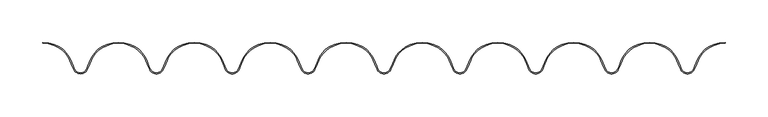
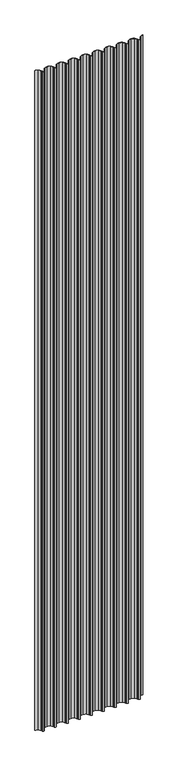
"""IFC4 building model written with IfcOpenShell, lengths in millimetres: plate geometry, Regolare Couverture 801  : Regolare Couverture 801 ."""

from ifc_helpers import new_model, si_unit, point, frame_2d, origin, origin_with_axes, place, context, project, spatial, polyline, circle_curve, trimmed, segment, composite_curve, outline, extrude, source, transform, mapped, element, save


def plate_819b0cbf(model_context):
    return source(origin(), model_context, "Body", "SweptSolid", [
        extrude(outline(composite_curve([segment(trimmed(circle_curve(frame_2d((-400.7317009, -1.5098563)), 37.4503244), [point((-381.1909507, 30.4383187))], [point((-400.7317009, 35.9404682))], True, "CARTESIAN"), True, "CONTINUOUS"), segment(polyline([(-400.7317009, 35.9404682), (-400.7317009, 36.9404682)]), True, "CONTINUOUS"), segment(trimmed(circle_curve(frame_2d((-400.7317009, -1.5098563)), 38.4503244), [point((-400.7317009, 36.9404682))], [point((-380.6691729, 31.2914001))], False, "CARTESIAN"), True, "CONTINUOUS"), segment(trimmed(circle_curve(frame_2d((-397.1660556, 4.3198001)), 31.6166783), [point((-380.6691729, 31.2914001))], [point((-367.8105714, 16.0616012))], False, "CARTESIAN"), True, "CONTINUOUS"), segment(polyline([(-367.8105714, 16.0616012), (-364.9413497, 8.8980757), (-363.294996, 5.4633665)]), True, "CONTINUOUS"), segment(trimmed(circle_curve(frame_2d((-356.2059563, 8.8613445)), 7.8613445), [point((-363.294996, 5.4633665))], [point((-356.2059563, 1.0))], True, "CARTESIAN"), True, "CONTINUOUS"), segment(trimmed(circle_curve(frame_2d((-356.2059563, 8.8613445)), 7.8613445), [point((-356.2059563, 1.0))], [point((-349.1169167, 5.4633665))], True, "CARTESIAN"), True, "CONTINUOUS"), segment(polyline([(-349.1169167, 5.4633665), (-347.470563, 8.8980757), (-344.6013413, 16.061601)]), True, "CONTINUOUS"), segment(trimmed(circle_curve(frame_2d((-315.245857, 4.3198001)), 31.6166783), [point((-344.6013413, 16.061601))], [point((-331.7427398, 31.2914001))], False, "CARTESIAN"), True, "CONTINUOUS"), segment(trimmed(circle_curve(frame_2d((-311.6802118, -1.5098563)), 38.4503244), [point((-331.7427398, 31.2914001))], [point((-311.6802118, 36.9404682))], False, "CARTESIAN"), True, "CONTINUOUS"), segment(trimmed(circle_curve(frame_2d((-311.6802118, -1.5098563)), 38.4503244), [point((-311.6802118, 36.9404682))], [point((-291.6176838, 31.2914001))], False, "CARTESIAN"), True, "CONTINUOUS"), segment(trimmed(circle_curve(frame_2d((-308.1145665, 4.3198001)), 31.6166783), [point((-291.6176838, 31.2914001))], [point((-278.7590823, 16.0616012))], False, "CARTESIAN"), True, "CONTINUOUS"), segment(polyline([(-278.7590823, 16.0616012), (-275.8898606, 8.8980757), (-274.2435069, 5.4633665)]), True, "CONTINUOUS"), segment(trimmed(circle_curve(frame_2d((-267.1544672, 8.8613445)), 7.8613445), [point((-274.2435069, 5.4633665))], [point((-260.0654276, 5.4633665))], True, "CARTESIAN"), True, "CONTINUOUS"), segment(polyline([(-260.0654276, 5.4633665), (-258.4190739, 8.8980757), (-255.5498522, 16.0616012)]), True, "CONTINUOUS"), segment(trimmed(circle_curve(frame_2d((-226.1943679, 4.3198001)), 31.6166783), [point((-255.5498522, 16.0616012))], [point((-242.6912507, 31.2914001))], False, "CARTESIAN"), True, "CONTINUOUS"), segment(trimmed(circle_curve(frame_2d((-222.6287227, -1.5098563)), 38.4503244), [point((-242.6912507, 31.2914001))], [point((-222.6287227, 36.9404682))], False, "CARTESIAN"), True, "CONTINUOUS"), segment(trimmed(circle_curve(frame_2d((-222.6287227, -1.5098563)), 38.4503244), [point((-222.6287227, 36.9404682))], [point((-202.5661947, 31.2914001))], False, "CARTESIAN"), True, "CONTINUOUS"), segment(trimmed(circle_curve(frame_2d((-219.0630775, 4.3198001)), 31.6166783), [point((-202.5661947, 31.2914001))], [point((-189.7075932, 16.0616012))], False, "CARTESIAN"), True, "CONTINUOUS"), segment(polyline([(-189.7075932, 16.0616012), (-186.8383715, 8.8980757), (-185.1920178, 5.4633665)]), True, "CONTINUOUS"), segment(trimmed(circle_curve(frame_2d((-178.1029782, 8.8613445)), 7.8613445), [point((-185.1920178, 5.4633665))], [point((-171.0139385, 5.4633665))], True, "CARTESIAN"), True, "CONTINUOUS"), segment(polyline([(-171.0139385, 5.4633665), (-169.3675848, 8.8980757), (-166.4983631, 16.0616012)]), True, "CONTINUOUS"), segment(trimmed(circle_curve(frame_2d((-137.1428789, 4.3198001)), 31.6166783), [point((-166.4983631, 16.0616012))], [point((-153.6397616, 31.2914001))], False, "CARTESIAN"), True, "CONTINUOUS"), segment(trimmed(circle_curve(frame_2d((-133.5772336, -1.5098563)), 38.4503244), [point((-153.6397616, 31.2914001))], [point((-133.5772336, 36.9404682))], False, "CARTESIAN"), True, "CONTINUOUS"), segment(trimmed(circle_curve(frame_2d((-133.5772336, -1.5098563)), 38.4503244), [point((-133.5772336, 36.9404682))], [point((-113.5147056, 31.2914001))], False, "CARTESIAN"), True, "CONTINUOUS"), segment(trimmed(circle_curve(frame_2d((-130.0115884, 4.3198001)), 31.6166783), [point((-113.5147056, 31.2914001))], [point((-100.6561042, 16.0616012))], False, "CARTESIAN"), True, "CONTINUOUS"), segment(polyline([(-100.6561042, 16.0616012), (-97.7868824, 8.8980757), (-96.1405287, 5.4633665)]), True, "CONTINUOUS"), segment(trimmed(circle_curve(frame_2d((-89.0514891, 8.8613445)), 7.8613445), [point((-96.1405287, 5.4633665))], [point((-81.9624494, 5.4633665))], True, "CARTESIAN"), True, "CONTINUOUS"), segment(polyline([(-81.9624494, 5.4633665), (-80.3160957, 8.8980757), (-77.4468741, 16.0616009)]), True, "CONTINUOUS"), segment(trimmed(circle_curve(frame_2d((-48.0913898, 4.3198001)), 31.6166783), [point((-77.4468741, 16.0616009))], [point((-64.5882725, 31.2914001))], False, "CARTESIAN"), True, "CONTINUOUS"), segment(trimmed(circle_curve(frame_2d((-44.5257445, -1.5098563)), 38.4503244), [point((-64.5882725, 31.2914001))], [point((-44.5257445, 36.9404682))], False, "CARTESIAN"), True, "CONTINUOUS"), segment(trimmed(circle_curve(frame_2d((-44.5257445, -1.5098563)), 38.4503244), [point((-44.5257445, 36.9404682))], [point((-24.4632165, 31.2914001))], False, "CARTESIAN"), True, "CONTINUOUS"), segment(trimmed(circle_curve(frame_2d((-40.9600993, 4.3198001)), 31.6166783), [point((-24.4632165, 31.2914001))], [point((-11.6046151, 16.0616012))], False, "CARTESIAN"), True, "CONTINUOUS"), segment(polyline([(-11.6046151, 16.0616012), (-8.7353934, 8.8980757), (-7.0890396, 5.4633665)]), True, "CONTINUOUS"), segment(trimmed(circle_curve(frame_2d((0.0, 8.8613445)), 7.8613445), [point((-7.0890396, 5.4633665))], [point((7.0890396, 5.4633665))], True, "CARTESIAN"), True, "CONTINUOUS"), segment(polyline([(7.0890396, 5.4633665), (10.1613035, 11.8728842), (11.81214, 15.9944927)]), True, "CONTINUOUS"), segment(trimmed(circle_curve(frame_2d((41.1621008, 4.238892)), 31.6166783), [point((11.81214, 15.9944927))], [point((24.665218, 31.210492))], False, "CARTESIAN"), True, "CONTINUOUS"), segment(trimmed(circle_curve(frame_2d((44.727746, -1.5907643)), 38.4503244), [point((24.665218, 31.210492))], [point((44.727746, 36.8595601))], False, "CARTESIAN"), True, "CONTINUOUS"), segment(trimmed(circle_curve(frame_2d((44.727746, -1.5907643)), 38.4503244), [point((44.727746, 36.8595601))], [point((64.790274, 31.210492))], False, "CARTESIAN"), True, "CONTINUOUS"), segment(trimmed(circle_curve(frame_2d((48.2933913, 4.238892)), 31.6166783), [point((64.790274, 31.210492))], [point((77.6433521, 15.9944927))], False, "CARTESIAN"), True, "CONTINUOUS"), segment(polyline([(77.6433521, 15.9944927), (81.3477885, 6.7457044), (81.9624494, 5.4633665)]), True, "CONTINUOUS"), segment(trimmed(circle_curve(frame_2d((89.0514891, 8.8613445)), 7.8613445), [point((81.9624494, 5.4633665))], [point((96.1405287, 5.4633665))], True, "CARTESIAN"), True, "CONTINUOUS"), segment(polyline([(96.1405287, 5.4633665), (97.7868824, 8.8980757), (100.6561041, 16.0616012)]), True, "CONTINUOUS"), segment(trimmed(circle_curve(frame_2d((130.0115884, 4.3198001)), 31.6166783), [point((100.6561041, 16.0616012))], [point((113.5147056, 31.2914001))], False, "CARTESIAN"), True, "CONTINUOUS"), segment(trimmed(circle_curve(frame_2d((133.5772336, -1.5098563)), 38.4503244), [point((113.5147056, 31.2914001))], [point((133.5772336, 36.9404682))], False, "CARTESIAN"), True, "CONTINUOUS"), segment(trimmed(circle_curve(frame_2d((133.5772336, -1.5098563)), 38.4503244), [point((133.5772336, 36.9404682))], [point((153.6397616, 31.2914001))], False, "CARTESIAN"), True, "CONTINUOUS"), segment(trimmed(circle_curve(frame_2d((137.1428789, 4.3198001)), 31.6166783), [point((153.6397616, 31.2914001))], [point((166.4983631, 16.0616012))], False, "CARTESIAN"), True, "CONTINUOUS"), segment(polyline([(166.4983631, 16.0616012), (169.3675848, 8.8980757), (171.0139385, 5.4633665)]), True, "CONTINUOUS"), segment(trimmed(circle_curve(frame_2d((178.1029782, 8.8613445)), 7.8613445), [point((171.0139385, 5.4633665))], [point((185.1920178, 5.4633665))], True, "CARTESIAN"), True, "CONTINUOUS"), segment(polyline([(185.1920178, 5.4633665), (186.8383715, 8.8980757), (189.7075932, 16.0616012)]), True, "CONTINUOUS"), segment(trimmed(circle_curve(frame_2d((219.0630775, 4.3198001)), 31.6166783), [point((189.7075932, 16.0616012))], [point((202.5661947, 31.2914001))], False, "CARTESIAN"), True, "CONTINUOUS"), segment(trimmed(circle_curve(frame_2d((222.6287227, -1.5098563)), 38.4503244), [point((202.5661947, 31.2914001))], [point((222.6287227, 36.9404682))], False, "CARTESIAN"), True, "CONTINUOUS"), segment(trimmed(circle_curve(frame_2d((222.6287227, -1.5098563)), 38.4503244), [point((222.6287227, 36.9404682))], [point((242.6912507, 31.2914001))], False, "CARTESIAN"), True, "CONTINUOUS"), segment(trimmed(circle_curve(frame_2d((226.1943679, 4.3198001)), 31.6166783), [point((242.6912507, 31.2914001))], [point((255.5498521, 16.0616013))], False, "CARTESIAN"), True, "CONTINUOUS"), segment(polyline([(255.5498521, 16.0616013), (258.4190739, 8.8980757), (260.0654276, 5.4633665)]), True, "CONTINUOUS"), segment(trimmed(circle_curve(frame_2d((267.1544672, 8.8613445)), 7.8613445), [point((260.0654276, 5.4633665))], [point((274.2435069, 5.4633665))], True, "CARTESIAN"), True, "CONTINUOUS"), segment(polyline([(274.2435069, 5.4633665), (275.8898606, 8.8980757), (278.7590823, 16.0616012)]), True, "CONTINUOUS"), segment(trimmed(circle_curve(frame_2d((308.1145665, 4.3198001)), 31.6166783), [point((278.7590823, 16.0616012))], [point((291.6176838, 31.2914001))], False, "CARTESIAN"), True, "CONTINUOUS"), segment(trimmed(circle_curve(frame_2d((311.6802118, -1.5098563)), 38.4503244), [point((291.6176838, 31.2914001))], [point((311.6802118, 36.9404682))], False, "CARTESIAN"), True, "CONTINUOUS"), segment(trimmed(circle_curve(frame_2d((311.6802118, -1.5098563)), 38.4503244), [point((311.6802118, 36.9404682))], [point((331.7427398, 31.2914001))], False, "CARTESIAN"), True, "CONTINUOUS"), segment(trimmed(circle_curve(frame_2d((315.245857, 4.3198001)), 31.6166783), [point((331.7427398, 31.2914001))], [point((344.6013413, 16.0616011))], False, "CARTESIAN"), True, "CONTINUOUS"), segment(polyline([(344.6013413, 16.0616011), (347.470563, 8.8980757), (349.1169167, 5.4633665)]), True, "CONTINUOUS"), segment(trimmed(circle_curve(frame_2d((356.2059563, 8.8613445)), 7.8613445), [point((349.1169167, 5.4633665))], [point((363.294996, 5.4633665))], True, "CARTESIAN"), True, "CONTINUOUS"), segment(polyline([(363.294996, 5.4633665), (364.9413497, 8.8980757), (367.8105713, 16.061601)]), True, "CONTINUOUS"), segment(trimmed(circle_curve(frame_2d((397.1660556, 4.3198001)), 31.6166783), [point((367.8105713, 16.061601))], [point((380.6691729, 31.2914001))], False, "CARTESIAN"), True, "CONTINUOUS"), segment(trimmed(circle_curve(frame_2d((400.7317009, -1.5098563)), 38.4503244), [point((380.6691729, 31.2914001))], [point((400.7317009, 36.9404682))], False, "CARTESIAN"), True, "CONTINUOUS"), segment(polyline([(400.7317009, 36.9404682), (400.7317009, 35.9404682)]), True, "CONTINUOUS"), segment(trimmed(circle_curve(frame_2d((400.7317009, -1.5098563)), 37.4503244), [point((400.7317009, 35.9404682))], [point((381.1909507, 30.4383187))], True, "CARTESIAN"), True, "CONTINUOUS"), segment(trimmed(circle_curve(frame_2d((397.1660556, 4.3198001)), 30.6166783), [point((381.1909507, 30.4383187))], [point((368.7389658, 15.6900047))], True, "CARTESIAN"), True, "CONTINUOUS"), segment(polyline([(368.7389658, 15.6900047), (365.8573799, 8.4956098), (364.1967551, 5.0311277)]), True, "CONTINUOUS"), segment(trimmed(circle_curve(frame_2d((356.2059563, 8.8613445)), 8.8613445), [point((364.1967551, 5.0311277))], [point((348.2151575, 5.0311277))], False, "CARTESIAN"), True, "CONTINUOUS"), segment(polyline([(348.2151575, 5.0311277), (346.5545328, 8.4956098), (343.6729469, 15.6900047)]), True, "CONTINUOUS"), segment(trimmed(circle_curve(frame_2d((315.245857, 4.3198001)), 30.6166783), [point((343.6729469, 15.6900047))], [point((331.2209619, 30.4383187))], True, "CARTESIAN"), True, "CONTINUOUS"), segment(trimmed(circle_curve(frame_2d((311.6802118, -1.5098563)), 37.4503244), [point((331.2209619, 30.4383187))], [point((311.6802118, 35.9404682))], True, "CARTESIAN"), True, "CONTINUOUS"), segment(trimmed(circle_curve(frame_2d((311.6802118, -1.5098563)), 37.4503244), [point((311.6802118, 35.9404682))], [point((292.1394616, 30.4383187))], True, "CARTESIAN"), True, "CONTINUOUS"), segment(trimmed(circle_curve(frame_2d((308.1145665, 4.3198001)), 30.6166783), [point((292.1394616, 30.4383187))], [point((279.6874767, 15.6900047))], True, "CARTESIAN"), True, "CONTINUOUS"), segment(polyline([(279.6874767, 15.6900047), (276.8058908, 8.4956098), (275.1452661, 5.0311277)]), True, "CONTINUOUS"), segment(trimmed(circle_curve(frame_2d((267.1544672, 8.8613445)), 8.8613445), [point((275.1452661, 5.0311277))], [point((259.1636684, 5.0311277))], False, "CARTESIAN"), True, "CONTINUOUS"), segment(polyline([(259.1636684, 5.0311277), (257.5030437, 8.4956098), (254.6214578, 15.6900047)]), True, "CONTINUOUS"), segment(trimmed(circle_curve(frame_2d((226.1943679, 4.3198001)), 30.6166783), [point((254.6214578, 15.6900047))], [point((242.1694728, 30.4383187))], True, "CARTESIAN"), True, "CONTINUOUS"), segment(trimmed(circle_curve(frame_2d((222.6287227, -1.5098563)), 37.4503244), [point((242.1694728, 30.4383187))], [point((222.6287227, 35.9404682))], True, "CARTESIAN"), True, "CONTINUOUS"), segment(trimmed(circle_curve(frame_2d((222.6287227, -1.5098563)), 37.4503244), [point((222.6287227, 35.9404682))], [point((203.0879726, 30.4383187))], True, "CARTESIAN"), True, "CONTINUOUS"), segment(trimmed(circle_curve(frame_2d((219.0630775, 4.3198001)), 30.6166783), [point((203.0879726, 30.4383187))], [point((190.6359876, 15.6900047))], True, "CARTESIAN"), True, "CONTINUOUS"), segment(polyline([(190.6359876, 15.6900047), (187.7544017, 8.4956098), (186.093777, 5.0311277)]), True, "CONTINUOUS"), segment(trimmed(circle_curve(frame_2d((178.1029782, 8.8613445)), 8.8613445), [point((186.093777, 5.0311277))], [point((170.1121793, 5.0311277))], False, "CARTESIAN"), True, "CONTINUOUS"), segment(polyline([(170.1121793, 5.0311277), (168.4515546, 8.4956098), (165.5699687, 15.6900047)]), True, "CONTINUOUS"), segment(trimmed(circle_curve(frame_2d((137.1428789, 4.3198001)), 30.6166783), [point((165.5699687, 15.6900047))], [point((153.1179838, 30.4383187))], True, "CARTESIAN"), True, "CONTINUOUS"), segment(trimmed(circle_curve(frame_2d((133.5772336, -1.5098563)), 37.4503244), [point((153.1179838, 30.4383187))], [point((133.5772336, 35.9404682))], True, "CARTESIAN"), True, "CONTINUOUS"), segment(trimmed(circle_curve(frame_2d((133.5772336, -1.5098563)), 37.4503244), [point((133.5772336, 35.9404682))], [point((114.0364835, 30.4383187))], True, "CARTESIAN"), True, "CONTINUOUS"), segment(trimmed(circle_curve(frame_2d((130.0115884, 4.3198001)), 30.6166783), [point((114.0364835, 30.4383187))], [point((101.5844985, 15.6900047))], True, "CARTESIAN"), True, "CONTINUOUS"), segment(polyline([(101.5844985, 15.6900047), (98.7029126, 8.4956098), (97.0422879, 5.0311277)]), True, "CONTINUOUS"), segment(trimmed(circle_curve(frame_2d((89.0514891, 8.8613445)), 8.8613445), [point((97.0422879, 5.0311277))], [point((81.0606903, 5.0311277))], False, "CARTESIAN"), True, "CONTINUOUS"), segment(polyline([(81.0606903, 5.0311277), (79.4000655, 8.4956098), (76.5184796, 15.6900047)]), True, "CONTINUOUS"), segment(trimmed(circle_curve(frame_2d((48.0913898, 4.3198001)), 30.6166783), [point((76.5184796, 15.6900047))], [point((64.0664947, 30.4383187))], True, "CARTESIAN"), True, "CONTINUOUS"), segment(trimmed(circle_curve(frame_2d((44.5257445, -1.5098563)), 37.4503244), [point((64.0664947, 30.4383187))], [point((44.5257445, 35.9404682))], True, "CARTESIAN"), True, "CONTINUOUS"), segment(trimmed(circle_curve(frame_2d((44.5257445, -1.5098563)), 37.4503244), [point((44.5257445, 35.9404682))], [point((24.9849944, 30.4383187))], True, "CARTESIAN"), True, "CONTINUOUS"), segment(trimmed(circle_curve(frame_2d((40.9600993, 4.3198001)), 30.6166783), [point((24.9849944, 30.4383187))], [point((12.5330095, 15.6900048))], True, "CARTESIAN"), True, "CONTINUOUS"), segment(polyline([(12.5330095, 15.6900048), (9.6514235, 8.4956098), (7.9907988, 5.0311277)]), True, "CONTINUOUS"), segment(trimmed(circle_curve(frame_2d((0.0, 8.8613445)), 8.8613445), [point((7.9907988, 5.0311277))], [point((-7.9907988, 5.0311277))], False, "CARTESIAN"), True, "CONTINUOUS"), segment(polyline([(-7.9907988, 5.0311277), (-9.6514235, 8.4956098), (-12.5330095, 15.6900047)]), True, "CONTINUOUS"), segment(trimmed(circle_curve(frame_2d((-40.9600993, 4.3198001)), 30.6166783), [point((-12.5330095, 15.6900047))], [point((-24.9849944, 30.4383187))], True, "CARTESIAN"), True, "CONTINUOUS"), segment(trimmed(circle_curve(frame_2d((-44.5257445, -1.5098563)), 37.4503244), [point((-24.9849944, 30.4383187))], [point((-44.5257445, 35.9404682))], True, "CARTESIAN"), True, "CONTINUOUS"), segment(trimmed(circle_curve(frame_2d((-44.5257445, -1.5098563)), 37.4503244), [point((-44.5257445, 35.9404682))], [point((-64.0664947, 30.4383187))], True, "CARTESIAN"), True, "CONTINUOUS"), segment(trimmed(circle_curve(frame_2d((-48.0913898, 4.3198001)), 30.6166783), [point((-64.0664947, 30.4383187))], [point((-76.5184796, 15.6900047))], True, "CARTESIAN"), True, "CONTINUOUS"), segment(polyline([(-76.5184796, 15.6900047), (-79.4000655, 8.4956098), (-81.0606903, 5.0311277)]), True, "CONTINUOUS"), segment(trimmed(circle_curve(frame_2d((-89.0514891, 8.8613445)), 8.8613445), [point((-81.0606903, 5.0311277))], [point((-97.0422879, 5.0311277))], False, "CARTESIAN"), True, "CONTINUOUS"), segment(polyline([(-97.0422879, 5.0311277), (-98.7029126, 8.4956098), (-101.5844985, 15.6900047)]), True, "CONTINUOUS"), segment(trimmed(circle_curve(frame_2d((-130.0115884, 4.3198001)), 30.6166783), [point((-101.5844985, 15.6900047))], [point((-114.0364835, 30.4383187))], True, "CARTESIAN"), True, "CONTINUOUS"), segment(trimmed(circle_curve(frame_2d((-133.5772336, -1.5098563)), 37.4503244), [point((-114.0364835, 30.4383187))], [point((-133.5772336, 35.9404682))], True, "CARTESIAN"), True, "CONTINUOUS"), segment(trimmed(circle_curve(frame_2d((-133.5772336, -1.5098563)), 37.4503244), [point((-133.5772336, 35.9404682))], [point((-153.1179838, 30.4383187))], True, "CARTESIAN"), True, "CONTINUOUS"), segment(trimmed(circle_curve(frame_2d((-137.1428789, 4.3198001)), 30.6166783), [point((-153.1179838, 30.4383187))], [point((-165.5699687, 15.6900047))], True, "CARTESIAN"), True, "CONTINUOUS"), segment(polyline([(-165.5699687, 15.6900047), (-168.4515546, 8.4956098), (-170.1121793, 5.0311277)]), True, "CONTINUOUS"), segment(trimmed(circle_curve(frame_2d((-178.1029782, 8.8613445)), 8.8613445), [point((-170.1121793, 5.0311277))], [point((-186.093777, 5.0311277))], False, "CARTESIAN"), True, "CONTINUOUS"), segment(polyline([(-186.093777, 5.0311277), (-187.7544017, 8.4956098), (-190.6359876, 15.6900047)]), True, "CONTINUOUS"), segment(trimmed(circle_curve(frame_2d((-219.0630775, 4.3198001)), 30.6166783), [point((-190.6359876, 15.6900047))], [point((-203.0879726, 30.4383187))], True, "CARTESIAN"), True, "CONTINUOUS"), segment(trimmed(circle_curve(frame_2d((-222.6287227, -1.5098563)), 37.4503244), [point((-203.0879726, 30.4383187))], [point((-222.6287227, 35.9404682))], True, "CARTESIAN"), True, "CONTINUOUS"), segment(trimmed(circle_curve(frame_2d((-222.6287227, -1.5098563)), 37.4503244), [point((-222.6287227, 35.9404682))], [point((-242.1694728, 30.4383187))], True, "CARTESIAN"), True, "CONTINUOUS"), segment(trimmed(circle_curve(frame_2d((-226.1943679, 4.3198001)), 30.6166783), [point((-242.1694728, 30.4383187))], [point((-254.6214578, 15.6900047))], True, "CARTESIAN"), True, "CONTINUOUS"), segment(polyline([(-254.6214578, 15.6900047), (-257.5030437, 8.4956098), (-259.1636684, 5.0311277)]), True, "CONTINUOUS"), segment(trimmed(circle_curve(frame_2d((-267.1544672, 8.8613445)), 8.8613445), [point((-259.1636684, 5.0311277))], [point((-275.1452661, 5.0311277))], False, "CARTESIAN"), True, "CONTINUOUS"), segment(polyline([(-275.1452661, 5.0311277), (-276.8058908, 8.4956098), (-279.6874767, 15.6900047)]), True, "CONTINUOUS"), segment(trimmed(circle_curve(frame_2d((-308.1145665, 4.3198001)), 30.6166783), [point((-279.6874767, 15.6900047))], [point((-292.1394616, 30.4383187))], True, "CARTESIAN"), True, "CONTINUOUS"), segment(trimmed(circle_curve(frame_2d((-311.6802118, -1.5098563)), 37.4503244), [point((-292.1394616, 30.4383187))], [point((-311.6802118, 35.9404682))], True, "CARTESIAN"), True, "CONTINUOUS"), segment(trimmed(circle_curve(frame_2d((-311.6802118, -1.5098563)), 37.4503244), [point((-311.6802118, 35.9404682))], [point((-331.2209619, 30.4383187))], True, "CARTESIAN"), True, "CONTINUOUS"), segment(trimmed(circle_curve(frame_2d((-315.245857, 4.3198001)), 30.6166783), [point((-331.2209619, 30.4383187))], [point((-343.6729469, 15.6900047))], True, "CARTESIAN"), True, "CONTINUOUS"), segment(polyline([(-343.6729469, 15.6900047), (-346.5545328, 8.4956098), (-348.2151575, 5.0311277)]), True, "CONTINUOUS"), segment(trimmed(circle_curve(frame_2d((-356.2059563, 8.8613445)), 8.8613445), [point((-348.2151575, 5.0311277))], [point((-356.2059563, 0.0))], False, "CARTESIAN"), True, "CONTINUOUS"), segment(trimmed(circle_curve(frame_2d((-356.2059563, 8.8613445)), 8.8613445), [point((-356.2059563, 0.0))], [point((-364.1967551, 5.0311277))], False, "CARTESIAN"), True, "CONTINUOUS"), segment(polyline([(-364.1967551, 5.0311277), (-365.8573799, 8.4956098), (-368.7389658, 15.6900047)]), True, "CONTINUOUS"), segment(trimmed(circle_curve(frame_2d((-397.1660556, 4.3198001)), 30.6166783), [point((-368.7389658, 15.6900047))], [point((-381.1909507, 30.4383187))], True, "CARTESIAN"), True, "CONTINUOUS")], self_intersect=False)), origin_with_axes(), (0.0, 0.0, 1.0), 5176.3809021),
    ])


if __name__ == "__main__":
    model = new_model("IFC4")
    model_context = context("Model", 3, world=origin())
    ifc_project = project(units=[si_unit("LENGTHUNIT", "METRE", prefix="MILLI")], contexts=[model_context])
    site = spatial("IfcSite", under=ifc_project)
    building = spatial("IfcBuilding", under=site)
    placement = place(None, origin())
    plate_shape = plate_819b0cbf(model_context)
    element("IfcPlate", 1, ObjectType="Regolare Couverture 801  : Regolare Couverture 801 ", at=placement, inside=building, context=model_context, shape_type="MappedRepresentation", body=[
        mapped(plate_shape, transform((0.0, 0.0, 0.0), x_axis=(1.0, 0.0, 0.0), y_axis=(0.0, 1.0, 0.0), z_axis=(0.0, 0.0, 1.0))),
    ])
    save(model, "model.ifc")
